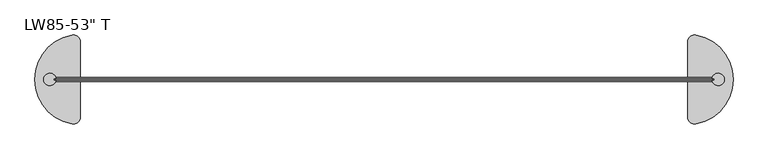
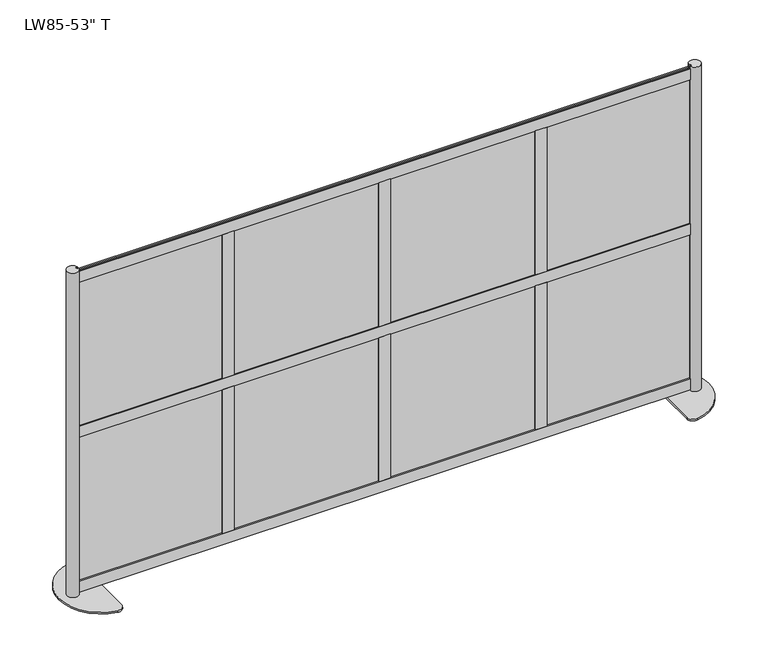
"""IFC4 building model written with IfcOpenShell, lengths in millimetres: furniture geometry."""

import ifcopenshell
import ifcopenshell.guid

model = None  # the IFC model being written
_history = None  # IfcOwnerHistory: only IFC2X3 demands one
_inside = {}  # id of a spatial element -> (the spatial element, [elements in it])
_under = {}  # id of a project, library or spatial element -> (it, [spatial elements below it])
_declared = {}  # id of a project -> (the project, [libraries it declares])
_typed = {}  # id of a type object -> (the type object, [elements of that type])
_made_of = {}  # id of a material, layer set ... -> (it, [elements and type objects made of it])


def new_model(schema):
    """Start an empty IFC model of exactly this schema.

    Asked for "IFC4X3", IfcOpenShell would pick the latest addendum, in which some entities
    have other attributes; the version numbers below select the first issue.
    IFC2X3 requires an IfcOwnerHistory on every rooted entity: one is made here for all.
    """
    global model, _history
    if schema == "IFC4X3":
        model = ifcopenshell.file(schema_version=(4, 3, 0, 0))
    else:
        model = ifcopenshell.file(schema=schema)
    _inside.clear()
    _under.clear()
    _declared.clear()
    _typed.clear()
    _made_of.clear()
    _history = None
    if model.schema == "IFC2X3":
        org = make("IfcOrganization", Name="unknown")
        user = make(
            "IfcPersonAndOrganization",
            ThePerson=make("IfcPerson", FamilyName="unknown"),
            TheOrganization=org,
        )
        app = make(
            "IfcApplication",
            ApplicationDeveloper=org,
            Version="unknown",
            ApplicationFullName="unknown",
            ApplicationIdentifier="unknown",
        )
        _history = make(
            "IfcOwnerHistory",
            OwningUser=user,
            OwningApplication=app,
            ChangeAction="ADDED",
            CreationDate=0,
        )
    return model


def make(cls, **values):
    """One entity of the class cls with the attributes given. An attribute that is None is left unset."""
    return model.create_entity(
        cls, **{name: value for name, value in values.items() if value is not None}
    )


def rooted(cls, **values):
    """An entity with a GlobalId (a new one), such as an element, a storey or a relation."""
    return make(cls, GlobalId=ifcopenshell.guid.new(), OwnerHistory=_history, **values)


def si_unit(unit_type, name, prefix=None):
    """IfcSIUnit, for example si_unit("LENGTHUNIT", "METRE", prefix="MILLI")."""
    return make("IfcSIUnit", UnitType=unit_type, Prefix=prefix, Name=name)


def assignment(units):
    """IfcUnitAssignment: the units of a project."""
    return None if units is None else make("IfcUnitAssignment", Units=units)


def point(xyz):
    """IfcCartesianPoint."""
    return None if xyz is None else make("IfcCartesianPoint", Coordinates=xyz)


def direction(xyz):
    """IfcDirection."""
    return None if xyz is None else make("IfcDirection", DirectionRatios=xyz)


def frame(location, z_axis=None, x_axis=None):
    """IfcAxis2Placement3D, a coordinate frame: its origin and axes. An axis left out is left unset."""
    return make(
        "IfcAxis2Placement3D",
        Location=point(location),
        Axis=direction(z_axis),
        RefDirection=direction(x_axis),
    )


def frame_2d(location, x_axis=None):
    """IfcAxis2Placement2D, a coordinate frame in the plane: its origin and x axis."""
    return make(
        "IfcAxis2Placement2D", Location=point(location), RefDirection=direction(x_axis)
    )


def origin():
    """The frame at (0, 0, 0) with its axes left unset."""
    return frame((0.0, 0.0, 0.0))


def origin_with_axes():
    """The frame at (0, 0, 0) with the z axis (0, 0, 1) and the x axis (1, 0, 0) written out."""
    return frame((0.0, 0.0, 0.0), z_axis=(0.0, 0.0, 1.0), x_axis=(1.0, 0.0, 0.0))


def place(relative_to, where):
    """IfcLocalPlacement: puts the frame where relative to a parent placement (None: the world)."""
    return make(
        "IfcLocalPlacement", PlacementRelTo=relative_to, RelativePlacement=where
    )


def context(
    kind, dimensions, precision=None, world=None, true_north=None, identifier=None
):
    """IfcGeometricRepresentationContext, for example the 3D "Model" context."""
    return make(
        "IfcGeometricRepresentationContext",
        ContextIdentifier=identifier,
        ContextType=kind,
        CoordinateSpaceDimension=dimensions,
        Precision=precision,
        WorldCoordinateSystem=world,
        TrueNorth=true_north,
    )


def project(units=None, contexts=None):
    """IfcProject with its units and contexts."""
    return rooted(
        "IfcProject",
        Name="project",
        RepresentationContexts=contexts,
        UnitsInContext=assignment(units),
    )


def spatial(cls, under=None, at=None, **own):
    """A site, building, storey or space (cls), placed at a placement, below another one or the project."""
    s = rooted(cls, ObjectPlacement=at, **own)
    if under is not None:
        _under.setdefault(under.id(), (under, []))[1].append(s)
    return s


def polyline(points):
    """IfcPolyline through the points."""
    return make("IfcPolyline", Points=[point(p) for p in points])


def circle_curve(where, radius):
    """IfcCircle in the frame where."""
    return make("IfcCircle", Position=where, Radius=radius)


def trimmed(basis, trim1, trim2, sense, master):
    """IfcTrimmedCurve: the piece of a basis curve between two trims."""
    return make(
        "IfcTrimmedCurve",
        BasisCurve=basis,
        Trim1=trim1,
        Trim2=trim2,
        SenseAgreement=sense,
        MasterRepresentation=master,
    )


def segment(curve, same_sense, transition):
    """IfcCompositeCurveSegment."""
    return make(
        "IfcCompositeCurveSegment",
        Transition=transition,
        SameSense=same_sense,
        ParentCurve=curve,
    )


def composite_curve(segments, self_intersect=None):
    """IfcCompositeCurve: segments joined end to end."""
    return make("IfcCompositeCurve", Segments=segments, SelfIntersect=self_intersect)


def outline(outer, holes=None, kind="AREA"):
    """IfcArbitraryClosedProfileDef: a profile drawn as a closed curve; with holes, ...WithVoids."""
    if holes is None:
        return make("IfcArbitraryClosedProfileDef", ProfileType=kind, OuterCurve=outer)
    return make(
        "IfcArbitraryProfileDefWithVoids",
        ProfileType=kind,
        OuterCurve=outer,
        InnerCurves=holes,
    )


def extrude(swept, where, along, depth):
    """IfcExtrudedAreaSolid: the profile swept, set in the frame where, extruded along a direction by depth."""
    return make(
        "IfcExtrudedAreaSolid",
        SweptArea=swept,
        Position=where,
        ExtrudedDirection=direction(along),
        Depth=depth,
    )


def shape(context_of_items, identifier, shape_type, items):
    """IfcShapeRepresentation: the items that make up one representation, for example the "Body"."""
    return make(
        "IfcShapeRepresentation",
        ContextOfItems=context_of_items,
        RepresentationIdentifier=identifier,
        RepresentationType=shape_type,
        Items=items,
    )


def source(mapping_origin, context_of_items, identifier, shape_type, items):
    """IfcRepresentationMap: a shape defined once, which mapped items show again and again."""
    return make(
        "IfcRepresentationMap",
        MappingOrigin=mapping_origin,
        MappedRepresentation=shape(context_of_items, identifier, shape_type, items),
    )


def transform(
    local_origin,
    x_axis=None,
    y_axis=None,
    z_axis=None,
    scale=None,
    scale2=None,
    scale3=None,
    uniform=True,
):
    """IfcCartesianTransformationOperator3D, or its non-uniform kind. x_axis, y_axis, z_axis: its Axis1, 2, 3."""
    if uniform:
        return make(
            "IfcCartesianTransformationOperator3D",
            Axis1=direction(x_axis),
            Axis2=direction(y_axis),
            LocalOrigin=point(local_origin),
            Scale=scale,
            Axis3=direction(z_axis),
        )
    return make(
        "IfcCartesianTransformationOperator3DnonUniform",
        Axis1=direction(x_axis),
        Axis2=direction(y_axis),
        LocalOrigin=point(local_origin),
        Scale=scale,
        Axis3=direction(z_axis),
        Scale2=scale2,
        Scale3=scale3,
    )


def mapped(mapping_source, mapping_target):
    """IfcMappedItem: shows the shape of a source again, moved by a transform."""
    return make(
        "IfcMappedItem", MappingSource=mapping_source, MappingTarget=mapping_target
    )


def made_of(thing, what):
    """Note that an element or type object is made of a material, layer set ...; save() writes the relation."""
    if what is not None:
        _made_of.setdefault(what.id(), (what, []))[1].append(thing)
    return thing


def element(
    cls,
    number,
    at=None,
    inside=None,
    cuts=None,
    type_object=None,
    material=None,
    context=None,
    identifier="Body",
    shape_type=None,
    held_by="IfcProductDefinitionShape",
    body=None,
    shapes=None,
    **own,
):
    """One element of the class cls, such as IfcWall. Its Tag is "e" and its number.

    at: its placement. inside: the storey or other place that contains it. cuts: it is an
    opening in that element (IfcRelVoidsElement). A single representation is given by context,
    identifier, shape_type and body (its items); several are given by shapes. held_by: the class
    of the entity that holds the representations. save() writes the other relations.
    """
    e = rooted(cls, Tag="e%d" % number, ObjectPlacement=at, **own)
    if body is not None:
        shapes = [shape(context, identifier, shape_type, body)]
    if shapes is not None:
        e.Representation = make(held_by, Representations=shapes)
    if inside is not None:
        _inside.setdefault(inside.id(), (inside, []))[1].append(e)
    if cuts is not None:
        rooted(
            "IfcRelVoidsElement", RelatingBuildingElement=cuts, RelatedOpeningElement=e
        )
    if type_object is not None:
        _typed.setdefault(type_object.id(), (type_object, []))[1].append(e)
    return made_of(e, material)


def aggregate(whole, parts):
    """IfcRelAggregates: a whole, such as a stair, and the parts it consists of."""
    return rooted("IfcRelAggregates", RelatingObject=whole, RelatedObjects=parts)


def save(model, path):
    """Write the relations noted so far, then the file.

    IfcRelAggregates (storeys below a building ...), IfcRelContainedInSpatialStructure (elements
    in a storey), IfcRelDefinesByType, IfcRelAssociatesMaterial and IfcRelDeclares: one each for
    every whole, place, type object, material and project.
    """
    for whole, parts in _under.values():
        aggregate(whole, parts)
    for where, things in _inside.values():
        rooted(
            "IfcRelContainedInSpatialStructure",
            RelatedElements=things,
            RelatingStructure=where,
        )
    for kind, things in _typed.values():
        rooted("IfcRelDefinesByType", RelatedObjects=things, RelatingType=kind)
    for what, things in _made_of.values():
        rooted("IfcRelAssociatesMaterial", RelatedObjects=things, RelatingMaterial=what)
    for by, libraries in _declared.values():
        rooted("IfcRelDeclares", RelatingContext=by, RelatedDefinitions=libraries)
    model.write(path)


def furniture_11cf4dc9(model_context):
    return source(origin(), model_context, "Body", "SweptSolid", [
        extrude(outline(polyline([(625.9190822, 1.5875), (1203.769083, 1.5875), (1203.7689093, -1.5875), (625.9189085, -1.5875), (625.9190822, 1.5875)])), frame((0.0, 0.0, 49.2633), z_axis=(0.0, 0.0, 1.0), x_axis=(1.0, 0.0, 0.0)), (0.0, 0.0, 1.0), 608.965),
        extrude(outline(polyline([(625.9190822, 1.5875), (1203.769083, 1.5875), (1203.7689093, -1.5875), (625.9189085, -1.5875), (625.9190822, 1.5875)])), frame((0.0, 0.0, 689.2671), z_axis=(0.0, 0.0, 1.0), x_axis=(1.0, 0.0, 0.0)), (0.0, 0.0, 1.0), 608.965),
        extrude(outline(polyline([(20.1607445, 1.5875), (598.0107453, 1.5875), (598.0105716, -1.5875), (20.1605708, -1.5875), (20.1607445, 1.5875)])), frame((0.0, 0.0, 689.2671), z_axis=(0.0, 0.0, 1.0), x_axis=(1.0, 0.0, 0.0)), (0.0, 0.0, 1.0), 608.965),
        extrude(outline(polyline([(20.1607445, 1.5875), (598.0107453, 1.5875), (598.0105716, -1.5875), (20.1605708, -1.5875), (20.1607445, 1.5875)])), frame((0.0, 0.0, 49.2633), z_axis=(0.0, 0.0, 1.0), x_axis=(1.0, 0.0, 0.0)), (0.0, 0.0, 1.0), 608.965),
        extrude(outline(polyline([(-591.3759178, 1.5875), (-13.525917, 1.5875), (-13.5260907, -1.5875), (-591.3760915, -1.5875), (-591.3759178, 1.5875)])), frame((0.0, 0.0, 689.2671), z_axis=(0.0, 0.0, 1.0), x_axis=(1.0, 0.0, 0.0)), (0.0, 0.0, 1.0), 608.965),
        extrude(outline(polyline([(-591.3759178, 1.5875), (-13.525917, 1.5875), (-13.5260907, -1.5875), (-591.3760915, -1.5875), (-591.3759178, 1.5875)])), frame((0.0, 0.0, 49.2633), z_axis=(0.0, 0.0, 1.0), x_axis=(1.0, 0.0, 0.0)), (0.0, 0.0, 1.0), 608.965),
        extrude(outline(polyline([(-1202.9125801, 1.5875), (-625.0625793, 1.5875), (-625.0627529, -1.5875), (-1202.9127538, -1.5875), (-1202.9125801, 1.5875)])), frame((0.0, 0.0, 689.2671), z_axis=(0.0, 0.0, 1.0), x_axis=(1.0, 0.0, 0.0)), (0.0, 0.0, 1.0), 608.965),
        extrude(outline(polyline([(-1202.9125801, 1.5875), (-625.0625793, 1.5875), (-625.0627529, -1.5875), (-1202.9127538, -1.5875), (-1202.9125801, 1.5875)])), frame((0.0, 0.0, 49.2633), z_axis=(0.0, 0.0, 1.0), x_axis=(1.0, 0.0, 0.0)), (0.0, 0.0, 1.0), 608.965),
        extrude(outline(polyline([(22.6314, 3.556), (15.5194, 3.556), (15.5194, -3.556), (22.6314, -3.556), (22.6314, -7.6327), (-22.6314, -7.6327), (-22.6314, -3.556), (-15.5194, -3.556), (-15.5194, 3.556), (-22.6314, 3.556), (-22.6314, 7.6327), (22.6314, 7.6327), (22.6314, 3.556)])), frame((0.0, 0.0, 56.3753), z_axis=(0.0, 0.0, 1.0), x_axis=(1.0, 0.0, 0.0)), (0.0, 0.0, 1.0), 594.741),
        extrude(outline(polyline([(22.6314, 3.556), (15.5194, 3.556), (15.5194, -3.556), (22.6314, -3.556), (22.6314, -7.6327), (-22.6314, -7.6327), (-22.6314, -3.556), (-15.5194, -3.556), (-15.5194, 3.556), (-22.6314, 3.556), (-22.6314, 7.6327), (22.6314, 7.6327), (22.6314, 3.556)])), frame((0.0, 0.0, 696.3791), z_axis=(0.0, 0.0, 1.0), x_axis=(1.0, 0.0, 0.0)), (0.0, 0.0, 1.0), 594.741),
        extrude(outline(polyline([(634.1680623, 3.556), (627.0560623, 3.556), (627.0560623, -3.556), (634.1680623, -3.556), (634.1680623, -7.6327), (588.9052623, -7.6327), (588.9052623, -3.556), (596.0172623, -3.556), (596.0172623, 3.556), (588.9052623, 3.556), (588.9052623, 7.6327), (634.1680623, 7.6327), (634.1680623, 3.556)])), frame((0.0, 0.0, 696.3791), z_axis=(0.0, 0.0, 1.0), x_axis=(1.0, 0.0, 0.0)), (0.0, 0.0, 1.0), 594.741),
        extrude(outline(polyline([(634.1680623, 3.556), (627.0560623, 3.556), (627.0560623, -3.556), (634.1680623, -3.556), (634.1680623, -7.6327), (588.9052623, -7.6327), (588.9052623, -3.556), (596.0172623, -3.556), (596.0172623, 3.556), (588.9052623, 3.556), (588.9052623, 7.6327), (634.1680623, 7.6327), (634.1680623, 3.556)])), frame((0.0, 0.0, 56.3753), z_axis=(0.0, 0.0, 1.0), x_axis=(1.0, 0.0, 0.0)), (0.0, 0.0, 1.0), 594.741),
        extrude(outline(polyline([(-634.1680623, 3.556), (-634.1680623, 7.6327), (-588.9052623, 7.6327), (-588.9052623, 3.556), (-596.0172623, 3.556), (-596.0172623, -3.556), (-588.9052623, -3.556), (-588.9052623, -7.6327), (-634.1680623, -7.6327), (-634.1680623, -3.556), (-627.0560623, -3.556), (-627.0560623, 3.556), (-634.1680623, 3.556)])), frame((0.0, 0.0, 696.3791), z_axis=(0.0, 0.0, 1.0), x_axis=(1.0, 0.0, 0.0)), (0.0, 0.0, 1.0), 594.741),
        extrude(outline(polyline([(-634.1680623, 3.556), (-634.1680623, 7.6327), (-588.9052623, 7.6327), (-588.9052623, 3.556), (-596.0172623, 3.556), (-596.0172623, -3.556), (-588.9052623, -3.556), (-588.9052623, -7.6327), (-634.1680623, -7.6327), (-634.1680623, -3.556), (-627.0560623, -3.556), (-627.0560623, 3.556), (-634.1680623, 3.556)])), frame((0.0, 0.0, 56.3753), z_axis=(0.0, 0.0, 1.0), x_axis=(1.0, 0.0, 0.0)), (0.0, 0.0, 1.0), 594.741),
        extrude(outline(polyline([(3.556, 651.1163), (3.556, 658.2283), (-3.556, 658.2283), (-3.556, 651.1163), (-7.6327, 651.1163), (-7.6327, 696.3791), (-3.556, 696.3791), (-3.556, 689.2671), (3.556, 689.2671), (3.556, 696.3791), (7.6327, 696.3791), (7.6327, 651.1163), (3.556, 651.1163)])), frame((-1194.5874, 0.0, 0.0), z_axis=(1.0, 0.0, 0.0), x_axis=(0.0, 1.0, 0.0)), (0.0, 0.0, 1.0), 2389.1748),
        extrude(outline(polyline([(3.556, 11.1125), (3.556, 18.2245), (-3.556, 18.2245), (-3.556, 11.1125), (-7.6327, 11.1125), (-7.6327, 56.3753), (-3.556, 56.3753), (-3.556, 49.2633), (3.556, 49.2633), (3.556, 56.3753), (7.6327, 56.3753), (7.6327, 11.1125), (3.556, 11.1125)])), frame((-1194.6636, 0.0, 0.0), z_axis=(1.0, 0.0, 0.0), x_axis=(0.0, 1.0, 0.0)), (0.0, 0.0, 1.0), 2389.3272),
        extrude(outline(polyline([(3.556, 1291.1200292), (3.556, 1298.2320292), (-3.556, 1298.2320292), (-3.556, 1291.1200292), (-7.6327, 1291.1200292), (-7.6327, 1336.3828292), (-3.556, 1336.3828292), (-3.556, 1329.2708292), (3.556, 1329.2708292), (3.556, 1336.3828292), (7.6327, 1336.3828292), (7.6327, 1291.1200292), (3.556, 1291.1200292)])), frame((-1194.6636, 0.0, 0.0), z_axis=(1.0, 0.0, 0.0), x_axis=(0.0, 1.0, 0.0)), (0.0, 0.0, 1.0), 2389.3272),
        extrude(outline(composite_curve([segment(polyline([(1194.6636, -7.7568093), (1194.6636, -3.556), (1201.7756, -3.556), (1201.7756, 3.556), (1194.6636, 3.556), (1194.6636, 7.7568093)]), True, "CONTINUOUS"), segment(trimmed(circle_curve(frame_2d((1215.7665837, 0.0)), 22.4834163), [point((1194.6636, 7.7568093))], [point((1194.6636, -7.7568093))], False, "CARTESIAN"), True, "CONTINUOUS")], self_intersect=False)), frame((0.0, 0.0, 6.35), z_axis=(0.0, 0.0, 1.0), x_axis=(1.0, 0.0, 0.0)), (0.0, 0.0, 1.0), 1339.85),
        extrude(outline(composite_curve([segment(polyline([(1104.9, -137.3715036), (1104.9, 137.3715036)]), True, "CONTINUOUS"), segment(trimmed(circle_curve(frame_2d((1130.3, 137.3715036)), 25.4), [point((1104.9, 137.3715036))], [point((1134.9181818, 162.3481406))], False, "CARTESIAN"), True, "CONTINUOUS"), segment(trimmed(circle_curve(frame_2d((1104.9, 0.0)), 165.1), [point((1134.9181818, 162.3481406))], [point((1270.0, 0.0))], False, "CARTESIAN"), True, "CONTINUOUS"), segment(trimmed(circle_curve(frame_2d((1104.9, 0.0)), 165.1), [point((1270.0, 0.0))], [point((1134.9181818, -162.3481406))], False, "CARTESIAN"), True, "CONTINUOUS"), segment(trimmed(circle_curve(frame_2d((1130.3, -137.3715036)), 25.4), [point((1134.9181818, -162.3481406))], [point((1104.9, -137.3715036))], False, "CARTESIAN"), True, "CONTINUOUS")], self_intersect=False)), origin_with_axes(), (0.0, 0.0, 1.0), 6.35),
        extrude(outline(composite_curve([segment(trimmed(circle_curve(frame_2d((-1215.7665837, 0.0)), 22.4834163), [point((-1194.6636, -7.7568093))], [point((-1194.6636, 7.7568093))], False, "CARTESIAN"), True, "CONTINUOUS"), segment(polyline([(-1194.6636, 7.7568093), (-1194.6636, 3.556), (-1201.7756, 3.556), (-1201.7756, -3.556), (-1194.6636, -3.556), (-1194.6636, -7.7568093)]), True, "CONTINUOUS")], self_intersect=False)), frame((0.0, 0.0, 6.35), z_axis=(0.0, 0.0, 1.0), x_axis=(1.0, 0.0, 0.0)), (0.0, 0.0, 1.0), 1339.85),
        extrude(outline(composite_curve([segment(trimmed(circle_curve(frame_2d((-1130.3, -137.3715036)), 25.4), [point((-1104.9, -137.3715036))], [point((-1134.9181818, -162.3481406))], False, "CARTESIAN"), True, "CONTINUOUS"), segment(trimmed(circle_curve(frame_2d((-1104.9, 0.0)), 165.1), [point((-1134.9181818, -162.3481406))], [point((-1270.0, 0.0))], False, "CARTESIAN"), True, "CONTINUOUS"), segment(trimmed(circle_curve(frame_2d((-1104.9, 0.0)), 165.1), [point((-1270.0, 0.0))], [point((-1134.9181818, 162.3481406))], False, "CARTESIAN"), True, "CONTINUOUS"), segment(trimmed(circle_curve(frame_2d((-1130.3, 137.3715036)), 25.4), [point((-1134.9181818, 162.3481406))], [point((-1104.9, 137.3715036))], False, "CARTESIAN"), True, "CONTINUOUS"), segment(polyline([(-1104.9, 137.3715036), (-1104.9, -137.3715036)]), True, "CONTINUOUS")], self_intersect=False)), origin_with_axes(), (0.0, 0.0, 1.0), 6.35),
    ])


if __name__ == "__main__":
    model = new_model("IFC4")
    model_context = context("Model", 3, world=origin())
    ifc_project = project(units=[si_unit("LENGTHUNIT", "METRE", prefix="MILLI")], contexts=[model_context])
    site = spatial("IfcSite", under=ifc_project)
    building = spatial("IfcBuilding", under=site)
    placement = place(None, origin())
    furniture_shape = furniture_11cf4dc9(model_context)
    element("IfcFurniture", 1, ObjectType="Loft_Wall-Framewall-100 : LW85-53\" T", at=placement, inside=building, context=model_context, shape_type="MappedRepresentation", body=[
        mapped(furniture_shape, transform((0.0, 0.0, 0.0), x_axis=(1.0, 0.0, 0.0), y_axis=(0.0, 1.0, 0.0), z_axis=(0.0, 0.0, 1.0))),
    ])
    save(model, "model.ifc")
